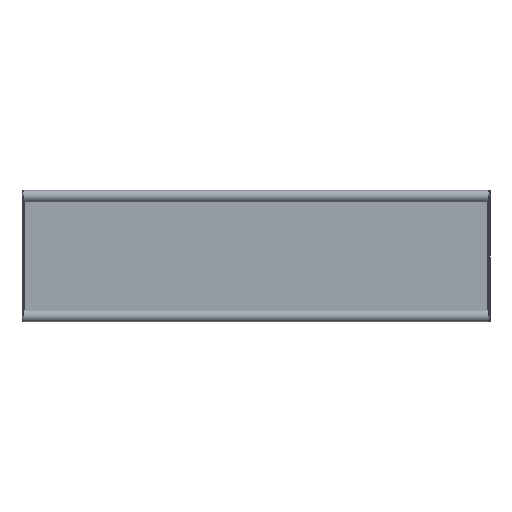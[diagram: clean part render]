
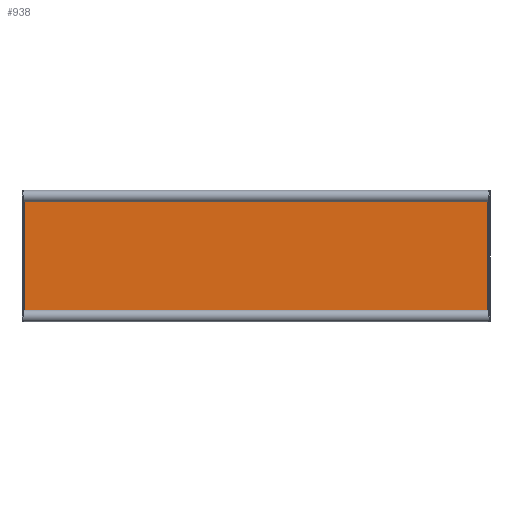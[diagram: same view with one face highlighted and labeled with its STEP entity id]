
A CAD part, front view. The second image highlights one B-rep face of the part: STEP entity #938.
In plain terms, the highlighted planar face has unit normal (0, -1, 0).
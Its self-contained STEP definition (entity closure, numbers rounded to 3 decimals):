
#108 = ORIENTED_EDGE ( 'NONE', *, *, #304, .F. ) ;
#143 = ORIENTED_EDGE ( 'NONE', *, *, #6476, .F. ) ;
#176 = EDGE_CURVE ( 'NONE', #2830, #6310, #1647, .T. ) ;
#208 = CARTESIAN_POINT ( 'NONE',  ( -396., -2., 107.5 ) ) ;
#281 = AXIS2_PLACEMENT_3D ( 'NONE', #5776, #2048, #5124 ) ;
#304 = EDGE_CURVE ( 'NONE', #7297, #4554, #2832, .T. ) ;
#607 = DIRECTION ( 'NONE',  ( 1., 0., 0. ) ) ;
#928 = CIRCLE ( 'NONE', #8140, 5. ) ;
#938 = ADVANCED_FACE ( 'NONE', ( #9570 ), #5071, .F. ) ;
#1428 = CARTESIAN_POINT ( 'NONE',  ( 399., -2., -111.5 ) ) ;
#1614 = VERTEX_POINT ( 'NONE', #5017 ) ;
#1647 = LINE ( 'NONE', #7001, #8745 ) ;
#1939 = DIRECTION ( 'NONE',  ( 0., -1., 0. ) ) ;
#2048 = DIRECTION ( 'NONE',  ( 0., 1., 0. ) ) ;
#2069 = VERTEX_POINT ( 'NONE', #7678 ) ;
#2111 = VECTOR ( 'NONE', #607, 1000. ) ;
#2145 = CARTESIAN_POINT ( 'NONE',  ( 399., -2., 111.5 ) ) ;
#2189 = CARTESIAN_POINT ( 'NONE',  ( -395., -2., 108.5 ) ) ;
#2380 = ORIENTED_EDGE ( 'NONE', *, *, #9017, .T. ) ;
#2830 = VERTEX_POINT ( 'NONE', #8879 ) ;
#2832 = LINE ( 'NONE', #5958, #7471 ) ;
#2928 = CARTESIAN_POINT ( 'NONE',  ( -396., -2., -111.5 ) ) ;
#3023 = ORIENTED_EDGE ( 'NONE', *, *, #3283, .F. ) ;
#3283 = EDGE_CURVE ( 'NONE', #2830, #5458, #928, .T. ) ;
#3346 = CARTESIAN_POINT ( 'NONE',  ( -399., -2., -111.5 ) ) ;
#3364 = CIRCLE ( 'NONE', #6562, 5. ) ;
#3494 = DIRECTION ( 'NONE',  ( 0., 0., 1. ) ) ;
#3650 = LINE ( 'NONE', #2928, #8324 ) ;
#4384 = VERTEX_POINT ( 'NONE', #208 ) ;
#4514 = CARTESIAN_POINT ( 'NONE',  ( 395., -2., 108.5 ) ) ;
#4554 = VERTEX_POINT ( 'NONE', #4514 ) ;
#4889 = ORIENTED_EDGE ( 'NONE', *, *, #176, .T. ) ;
#5017 = CARTESIAN_POINT ( 'NONE',  ( -395., -2., -108.5 ) ) ;
#5071 = PLANE ( 'NONE',  #281 ) ;
#5118 = DIRECTION ( 'NONE',  ( 0., 0., 1. ) ) ;
#5124 = DIRECTION ( 'NONE',  ( 0., 0., 1. ) ) ;
#5130 = CIRCLE ( 'NONE', #6382, 5. ) ;
#5395 = DIRECTION ( 'NONE',  ( 0., 0., 1. ) ) ;
#5439 = ORIENTED_EDGE ( 'NONE', *, *, #9245, .F. ) ;
#5458 = VERTEX_POINT ( 'NONE', #7911 ) ;
#5487 = CIRCLE ( 'NONE', #8998, 5. ) ;
#5523 = EDGE_CURVE ( 'NONE', #1614, #2069, #5130, .T. ) ;
#5776 = CARTESIAN_POINT ( 'NONE',  ( -399., -2., -111.5 ) ) ;
#5958 = CARTESIAN_POINT ( 'NONE',  ( -399., -2., 108.5 ) ) ;
#6310 = VERTEX_POINT ( 'NONE', #9120 ) ;
#6382 = AXIS2_PLACEMENT_3D ( 'NONE', #3346, #7304, #5118 ) ;
#6431 = EDGE_CURVE ( 'NONE', #4554, #6310, #3364, .T. ) ;
#6476 = EDGE_CURVE ( 'NONE', #2069, #4384, #3650, .T. ) ;
#6562 = AXIS2_PLACEMENT_3D ( 'NONE', #2145, #9717, #8172 ) ;
#7001 = CARTESIAN_POINT ( 'NONE',  ( 396., -2., -111.5 ) ) ;
#7114 = ORIENTED_EDGE ( 'NONE', *, *, #5523, .F. ) ;
#7133 = CARTESIAN_POINT ( 'NONE',  ( -399., -2., 111.5 ) ) ;
#7297 = VERTEX_POINT ( 'NONE', #2189 ) ;
#7304 = DIRECTION ( 'NONE',  ( 0., -1., 0. ) ) ;
#7471 = VECTOR ( 'NONE', #8302, 1000. ) ;
#7678 = CARTESIAN_POINT ( 'NONE',  ( -396., -2., -107.5 ) ) ;
#7911 = CARTESIAN_POINT ( 'NONE',  ( 395., -2., -108.5 ) ) ;
#8140 = AXIS2_PLACEMENT_3D ( 'NONE', #1428, #9199, #5395 ) ;
#8172 = DIRECTION ( 'NONE',  ( 0., 0., 1. ) ) ;
#8302 = DIRECTION ( 'NONE',  ( 1., 0., 0. ) ) ;
#8324 = VECTOR ( 'NONE', #9060, 1000. ) ;
#8383 = EDGE_LOOP ( 'NONE', ( #3023, #4889, #9339, #108, #5439, #143, #7114, #2380 ) ) ;
#8665 = DIRECTION ( 'NONE',  ( 0., 0., 1. ) ) ;
#8745 = VECTOR ( 'NONE', #3494, 1000. ) ;
#8780 = LINE ( 'NONE', #9581, #2111 ) ;
#8879 = CARTESIAN_POINT ( 'NONE',  ( 396., -2., -107.5 ) ) ;
#8998 = AXIS2_PLACEMENT_3D ( 'NONE', #7133, #1939, #8665 ) ;
#9017 = EDGE_CURVE ( 'NONE', #1614, #5458, #8780, .T. ) ;
#9060 = DIRECTION ( 'NONE',  ( 0., 0., 1. ) ) ;
#9120 = CARTESIAN_POINT ( 'NONE',  ( 396., -2., 107.5 ) ) ;
#9199 = DIRECTION ( 'NONE',  ( 0., -1., 0. ) ) ;
#9245 = EDGE_CURVE ( 'NONE', #4384, #7297, #5487, .T. ) ;
#9339 = ORIENTED_EDGE ( 'NONE', *, *, #6431, .F. ) ;
#9570 = FACE_OUTER_BOUND ( 'NONE', #8383, .T. ) ;
#9581 = CARTESIAN_POINT ( 'NONE',  ( -399., -2., -108.5 ) ) ;
#9717 = DIRECTION ( 'NONE',  ( 0., -1., 0. ) ) ;
